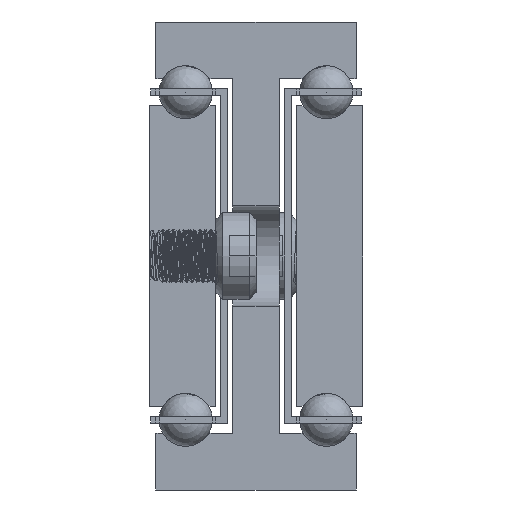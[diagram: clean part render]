
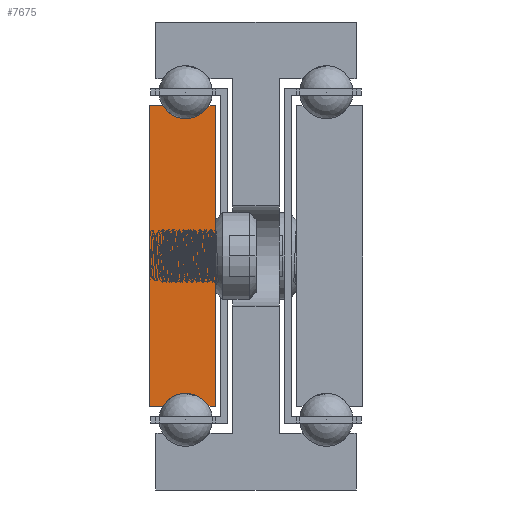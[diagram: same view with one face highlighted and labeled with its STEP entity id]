
A CAD part, front view. The second image highlights one B-rep face of the part: STEP entity #7675.
In plain terms, the highlighted planar face has unit normal (0, -1, 0).
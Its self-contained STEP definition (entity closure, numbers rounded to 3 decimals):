
#1277=CIRCLE('',#8279,4.);
#1279=CIRCLE('',#8285,4.);
#1969=FACE_OUTER_BOUND('',#2469,.T.);
#2469=EDGE_LOOP('',(#6086,#6087,#6088,#6089,#6090,#6091,#6092,#6093));
#3348=LINE('',#99049,#3560);
#3351=LINE('',#99055,#3563);
#3355=LINE('',#99067,#3567);
#3358=LINE('',#99073,#3570);
#3361=LINE('',#99079,#3573);
#3365=LINE('',#99089,#3577);
#3560=VECTOR('',#9298,1.);
#3563=VECTOR('',#9303,1.);
#3567=VECTOR('',#9315,1.);
#3570=VECTOR('',#9320,1.);
#3573=VECTOR('',#9325,1.);
#3577=VECTOR('',#9337,1.);
#3860=VERTEX_POINT('',#99046);
#3861=VERTEX_POINT('',#99048);
#3863=VERTEX_POINT('',#99054);
#3865=VERTEX_POINT('',#99060);
#3867=VERTEX_POINT('',#99066);
#3869=VERTEX_POINT('',#99072);
#3871=VERTEX_POINT('',#99078);
#3873=VERTEX_POINT('',#99084);
#4842=EDGE_CURVE('',#3861,#3860,#3348,.T.);
#4845=EDGE_CURVE('',#3863,#3861,#3351,.T.);
#4848=EDGE_CURVE('',#3865,#3863,#1277,.T.);
#4851=EDGE_CURVE('',#3867,#3865,#3355,.T.);
#4854=EDGE_CURVE('',#3869,#3867,#3358,.T.);
#4857=EDGE_CURVE('',#3871,#3869,#3361,.T.);
#4860=EDGE_CURVE('',#3873,#3871,#1279,.T.);
#4863=EDGE_CURVE('',#3860,#3873,#3365,.T.);
#6086=ORIENTED_EDGE('',*,*,#4863,.T.);
#6087=ORIENTED_EDGE('',*,*,#4860,.T.);
#6088=ORIENTED_EDGE('',*,*,#4857,.T.);
#6089=ORIENTED_EDGE('',*,*,#4854,.T.);
#6090=ORIENTED_EDGE('',*,*,#4851,.T.);
#6091=ORIENTED_EDGE('',*,*,#4848,.T.);
#6092=ORIENTED_EDGE('',*,*,#4845,.T.);
#6093=ORIENTED_EDGE('',*,*,#4842,.T.);
#7529=PLANE('',#8288);
#7675=ADVANCED_FACE('',(#1969),#7529,.T.);
#8279=AXIS2_PLACEMENT_3D('',#99061,#9309,#9310);
#8285=AXIS2_PLACEMENT_3D('',#99085,#9331,#9332);
#8288=AXIS2_PLACEMENT_3D('',#99091,#9340,#9341);
#9298=DIRECTION('',(0.,0.,-1.));
#9303=DIRECTION('',(-1.,0.,0.));
#9309=DIRECTION('center_axis',(0.,1.,0.));
#9310=DIRECTION('ref_axis',(-0.866,0.,-0.5));
#9315=DIRECTION('',(-1.,0.,0.));
#9320=DIRECTION('',(0.,0.,1.));
#9325=DIRECTION('',(1.,0.,0.));
#9331=DIRECTION('center_axis',(0.,1.,0.));
#9332=DIRECTION('ref_axis',(0.866,0.,0.5));
#9337=DIRECTION('',(1.,0.,0.));
#9340=DIRECTION('center_axis',(0.,-1.,0.));
#9341=DIRECTION('ref_axis',(1.,0.,0.));
#99046=CARTESIAN_POINT('',(-1607.639,-1983.481,-57.5));
#99048=CARTESIAN_POINT('',(-1607.639,-1983.481,-12.5));
#99049=CARTESIAN_POINT('',(-1607.639,-1983.481,-57.5));
#99054=CARTESIAN_POINT('',(-1605.603,-1983.481,-12.5));
#99055=CARTESIAN_POINT('',(-1607.639,-1983.481,-12.5));
#99060=CARTESIAN_POINT('',(-1598.675,-1983.481,-12.5));
#99061=CARTESIAN_POINT('Origin',(-1602.139,-1983.481,-10.5));
#99066=CARTESIAN_POINT('',(-1597.639,-1983.481,-12.5));
#99067=CARTESIAN_POINT('',(-1598.675,-1983.481,-12.5));
#99072=CARTESIAN_POINT('',(-1597.639,-1983.481,-57.5));
#99073=CARTESIAN_POINT('',(-1597.639,-1983.481,-12.5));
#99078=CARTESIAN_POINT('',(-1598.675,-1983.481,-57.5));
#99079=CARTESIAN_POINT('',(-1597.639,-1983.481,-57.5));
#99084=CARTESIAN_POINT('',(-1605.603,-1983.481,-57.5));
#99085=CARTESIAN_POINT('Origin',(-1602.139,-1983.481,-59.5));
#99089=CARTESIAN_POINT('',(-1605.603,-1983.481,-57.5));
#99091=CARTESIAN_POINT('Origin',(-1602.645,-1983.481,-35.));
